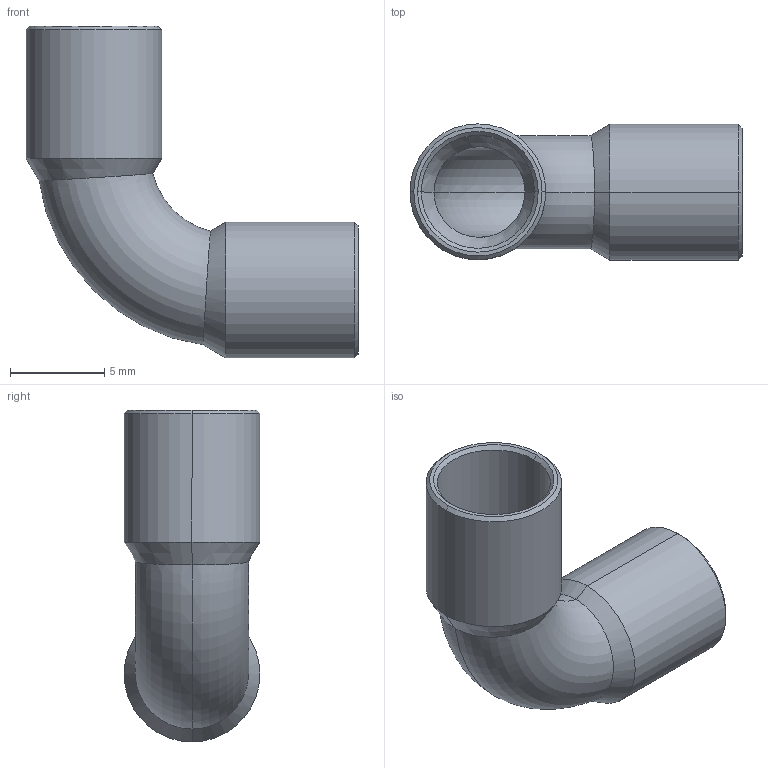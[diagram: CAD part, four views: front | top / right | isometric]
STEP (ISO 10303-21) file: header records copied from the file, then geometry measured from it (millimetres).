
FILE_DESCRIPTION((''),'2;1');
FILE_NAME('D:\5002\15002a6.stp','2005-10-04T08:37:54',('Kris'),(''),'Autodesk Inventor 8','Autodesk Inventor 8','');
FILE_SCHEMA(('AUTOMOTIVE_DESIGN { 1 0 10303 214 1 1 1 1 }'));
Length unit declared in the file: millimetre
Products named in the file (1): 15002a6
Bounding box: 17.6 x 7.2 x 17.6 mm (x, y, z)
Volume: 289.1 mm3; surface area: 984.2 mm2
Topology: 1 solids, 1 shells, 30 faces, 60 edges, 32 vertices
Faces by surface type: cone 12, bspline 9, torus 4, cylinder 4, plane 1
Entity records: 1027 total; most frequent: CARTESIAN_POINT 414, DIRECTION 124, ORIENTED_EDGE 120, EDGE_CURVE 60, AXIS2_PLACEMENT_3D 50, VERTEX_POINT 32, EDGE_LOOP 32, FACE_OUTER_BOUND 30
